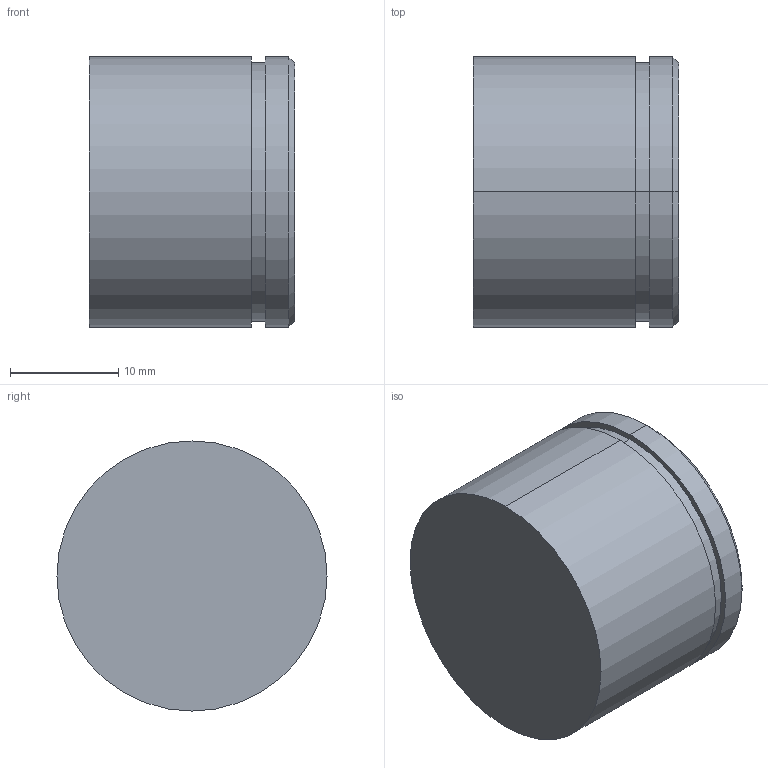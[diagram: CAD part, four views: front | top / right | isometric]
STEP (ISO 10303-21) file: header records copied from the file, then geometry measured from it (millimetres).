
FILE_DESCRIPTION (( 'STEP AP203' ), '1' );
FILE_NAME ('S5-25.STEP', '2002-08-16T10:50:59', ( '.' ), ( '.' ), 'SwSTEP 2.0', 'SolidWorks 2001340', '' );
FILE_SCHEMA (( 'CONFIG_CONTROL_DESIGN' ));
Length unit declared in the file: millimetre
Products named in the file (1): S5-25
Bounding box: 19 x 25 x 25 mm (x, y, z)
Volume: 9260 mm3; surface area: 2528.3 mm2
Topology: 1 solids, 1 shells, 12 faces, 22 edges, 14 vertices
Faces by surface type: cylinder 6, plane 4, cone 2
Entity records: 381 total; most frequent: DIRECTION 62, CARTESIAN_POINT 49, ORIENTED_EDGE 44, AXIS2_PLACEMENT_3D 27, EDGE_CURVE 22, EDGE_LOOP 14, VERTEX_POINT 14, CIRCLE 14
